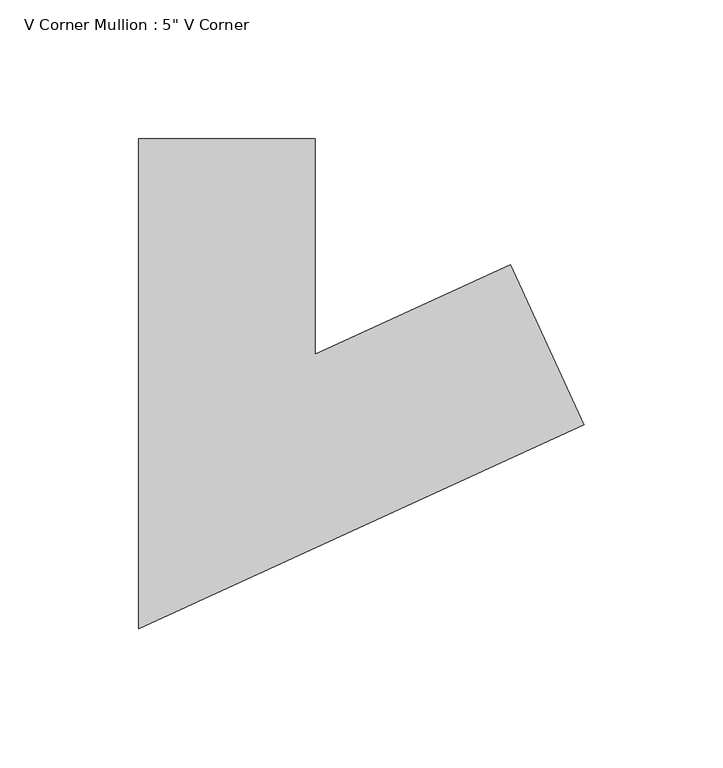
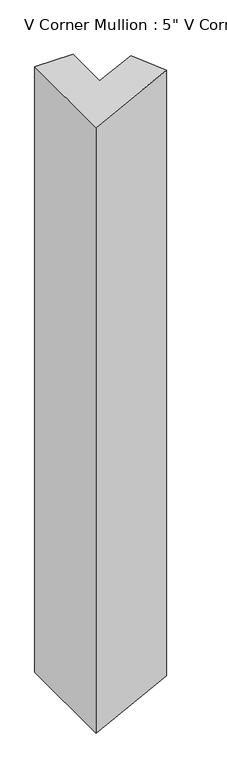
"""IFC4 building model written with IfcOpenShell, lengths in millimetres: member geometry."""

from ifc_helpers import new_model, si_unit, frame, origin, place, context, project, spatial, polyline, outline, extrude, source, transform, mapped, element, save


def member_db8f3720(model_context):
    return source(origin(), model_context, "Body", "SweptSolid", [
        extrude(outline(polyline([(87.9205542, -39.5195451), (-72.5228811, -112.9476953), (-72.5228811, 63.5), (-9.0228811, 63.5), (-9.0228811, -14.0523047), (61.49523, 18.2208415), (87.9205542, -39.5195451)])), frame((0.0, 0.0, -1066.8), z_axis=(0.0, 0.0, 1.0), x_axis=(1.0, 0.0, 0.0)), (0.0, 0.0, 1.0), 1066.8),
    ])


if __name__ == "__main__":
    model = new_model("IFC4")
    model_context = context("Model", 3, world=origin())
    ifc_project = project(units=[si_unit("LENGTHUNIT", "METRE", prefix="MILLI")], contexts=[model_context])
    site = spatial("IfcSite", under=ifc_project)
    building = spatial("IfcBuilding", under=site)
    placement = place(None, origin())
    member_shape = member_db8f3720(model_context)
    element("IfcMember", 1, ObjectType="V Corner Mullion : 5\" V Corner", at=placement, inside=building, context=model_context, shape_type="MappedRepresentation", body=[
        mapped(member_shape, transform((0.0, 0.0, 0.0), x_axis=(1.0, 0.0, 0.0), y_axis=(0.0, 1.0, 0.0), z_axis=(0.0, 0.0, 1.0))),
    ])
    save(model, "model.ifc")
